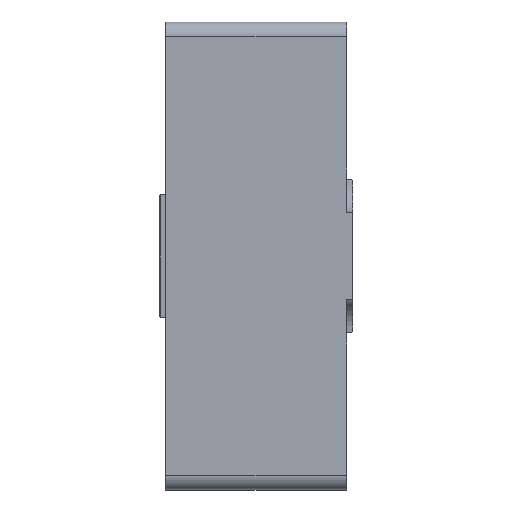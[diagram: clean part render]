
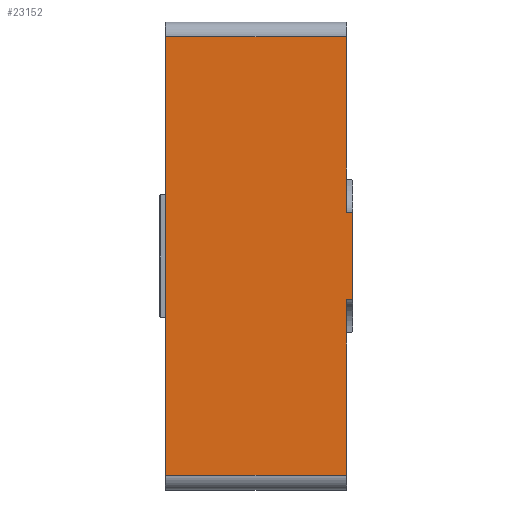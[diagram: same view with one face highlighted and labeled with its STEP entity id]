
A CAD part, left-side view. The second image highlights one B-rep face of the part: STEP entity #23152.
In plain terms, the highlighted planar face has unit normal (-1, 0, 0).
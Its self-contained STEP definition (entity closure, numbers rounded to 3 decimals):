
#435 = FACE_OUTER_BOUND ( 'NONE', #32258, .T. ) ;
#817 = CARTESIAN_POINT ( 'NONE',  ( -80., -33., -15. ) ) ;
#821 = EDGE_CURVE ( 'NONE', #21795, #45620, #32983, .T. ) ;
#1176 = CARTESIAN_POINT ( 'NONE',  ( -80., 33., 75. ) ) ;
#1566 = ORIENTED_EDGE ( 'NONE', *, *, #19974, .T. ) ;
#1604 = VERTEX_POINT ( 'NONE', #51787 ) ;
#2391 = EDGE_CURVE ( 'NONE', #4095, #45709, #36028, .T. ) ;
#4095 = VERTEX_POINT ( 'NONE', #16081 ) ;
#4954 = CARTESIAN_POINT ( 'NONE',  ( -80., 30.8, 75. ) ) ;
#7932 = CARTESIAN_POINT ( 'NONE',  ( -80., 33., -15. ) ) ;
#8208 = DIRECTION ( 'NONE',  ( 0., 1., 0. ) ) ;
#9346 = CARTESIAN_POINT ( 'NONE',  ( -80., 33., 0. ) ) ;
#10021 = CARTESIAN_POINT ( 'NONE',  ( -80., -30.8, 75. ) ) ;
#10457 = VECTOR ( 'NONE', #38071, 1000. ) ;
#10716 = ORIENTED_EDGE ( 'NONE', *, *, #821, .F. ) ;
#11806 = VECTOR ( 'NONE', #26246, 1000. ) ;
#11891 = LINE ( 'NONE', #28343, #22126 ) ;
#12303 = PLANE ( 'NONE',  #28975 ) ;
#12558 = CARTESIAN_POINT ( 'NONE',  ( -80., -33., 0. ) ) ;
#12865 = EDGE_CURVE ( 'NONE', #30017, #37638, #11891, .T. ) ;
#14597 = CARTESIAN_POINT ( 'NONE',  ( -80., 30.8, -75. ) ) ;
#14840 = CARTESIAN_POINT ( 'NONE',  ( -80., -33., 15. ) ) ;
#15677 = VERTEX_POINT ( 'NONE', #28632 ) ;
#16081 = CARTESIAN_POINT ( 'NONE',  ( -80., -30.8, 15. ) ) ;
#17626 = VECTOR ( 'NONE', #32886, 1000. ) ;
#19845 = DIRECTION ( 'NONE',  ( 0., -1., 0. ) ) ;
#19974 = EDGE_CURVE ( 'NONE', #4095, #1604, #42132, .T. ) ;
#21795 = VERTEX_POINT ( 'NONE', #817 ) ;
#22126 = VECTOR ( 'NONE', #44795, 1000. ) ;
#23152 = ADVANCED_FACE ( 'NONE', ( #435 ), #12303, .F. ) ;
#23479 = LINE ( 'NONE', #39909, #17626 ) ;
#24553 = VECTOR ( 'NONE', #53043, 1000. ) ;
#25495 = ORIENTED_EDGE ( 'NONE', *, *, #37698, .T. ) ;
#26246 = DIRECTION ( 'NONE',  ( 0., -1., 0. ) ) ;
#26840 = ORIENTED_EDGE ( 'NONE', *, *, #44973, .F. ) ;
#28343 = CARTESIAN_POINT ( 'NONE',  ( -80., 30.8, -75. ) ) ;
#28632 = CARTESIAN_POINT ( 'NONE',  ( -80., -30.8, -75. ) ) ;
#28975 = AXIS2_PLACEMENT_3D ( 'NONE', #9346, #50057, #29289 ) ;
#29256 = EDGE_CURVE ( 'NONE', #21795, #45709, #37099, .T. ) ;
#29289 = DIRECTION ( 'NONE',  ( 0., 0., -1. ) ) ;
#30017 = VERTEX_POINT ( 'NONE', #4954 ) ;
#31056 = LINE ( 'NONE', #43754, #34981 ) ;
#32258 = EDGE_LOOP ( 'NONE', ( #25495, #48382, #10716, #42585, #38541, #1566, #26840, #41435 ) ) ;
#32886 = DIRECTION ( 'NONE',  ( 0., -1., 0. ) ) ;
#32983 = LINE ( 'NONE', #7932, #40791 ) ;
#34981 = VECTOR ( 'NONE', #47521, 1000. ) ;
#35235 = CARTESIAN_POINT ( 'NONE',  ( -80., 33., 15. ) ) ;
#36028 = LINE ( 'NONE', #35235, #38080 ) ;
#37099 = LINE ( 'NONE', #12558, #24553 ) ;
#37638 = VERTEX_POINT ( 'NONE', #14597 ) ;
#37698 = EDGE_CURVE ( 'NONE', #37638, #15677, #23479, .T. ) ;
#38071 = DIRECTION ( 'NONE',  ( 0., 0., 1. ) ) ;
#38080 = VECTOR ( 'NONE', #19845, 1000. ) ;
#38384 = LINE ( 'NONE', #1176, #11806 ) ;
#38541 = ORIENTED_EDGE ( 'NONE', *, *, #2391, .F. ) ;
#39896 = CARTESIAN_POINT ( 'NONE',  ( -80., -30.8, -15. ) ) ;
#39909 = CARTESIAN_POINT ( 'NONE',  ( -80., 33., -75. ) ) ;
#40128 = EDGE_CURVE ( 'NONE', #15677, #45620, #31056, .T. ) ;
#40791 = VECTOR ( 'NONE', #8208, 1000. ) ;
#41435 = ORIENTED_EDGE ( 'NONE', *, *, #12865, .T. ) ;
#42132 = LINE ( 'NONE', #10021, #10457 ) ;
#42585 = ORIENTED_EDGE ( 'NONE', *, *, #29256, .T. ) ;
#43754 = CARTESIAN_POINT ( 'NONE',  ( -80., -30.8, -15. ) ) ;
#44795 = DIRECTION ( 'NONE',  ( 0., 0., -1. ) ) ;
#44973 = EDGE_CURVE ( 'NONE', #30017, #1604, #38384, .T. ) ;
#45620 = VERTEX_POINT ( 'NONE', #39896 ) ;
#45709 = VERTEX_POINT ( 'NONE', #14840 ) ;
#47521 = DIRECTION ( 'NONE',  ( 0., 0., 1. ) ) ;
#48382 = ORIENTED_EDGE ( 'NONE', *, *, #40128, .T. ) ;
#50057 = DIRECTION ( 'NONE',  ( 1., 0., 0. ) ) ;
#51787 = CARTESIAN_POINT ( 'NONE',  ( -80., -30.8, 75. ) ) ;
#53043 = DIRECTION ( 'NONE',  ( 0., 0., 1. ) ) ;
